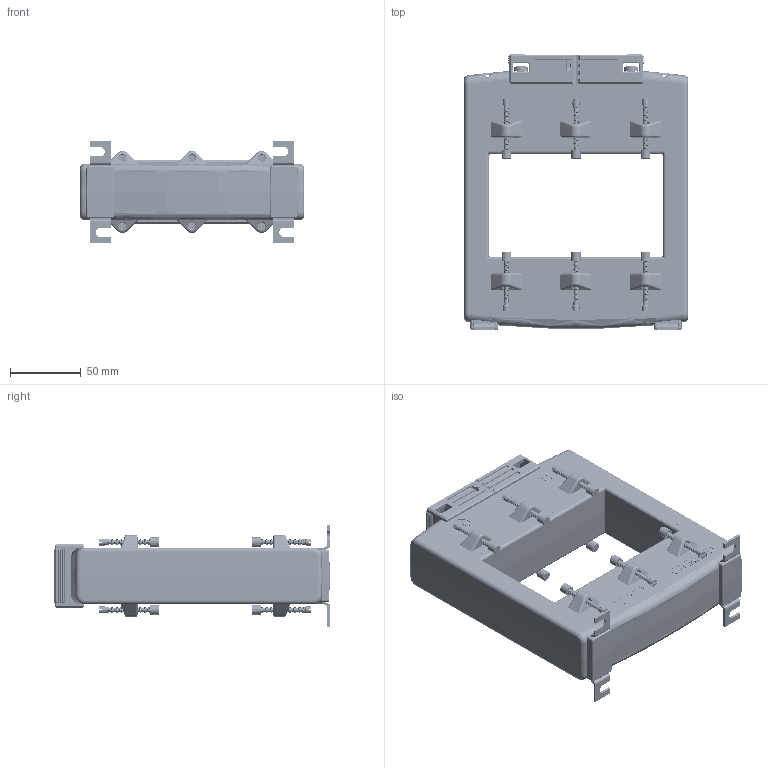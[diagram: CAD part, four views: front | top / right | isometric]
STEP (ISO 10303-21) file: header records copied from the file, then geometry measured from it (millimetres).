
FILE_DESCRIPTION(/* description */ (''),/* implementation_level */ '2;1');
FILE_NAME(/* name */ 'ASK127.4.stp',/* time_stamp */ '2024-03-04T14:41:11+01:00',/* author */ ('JDI'),/* organization */ (''),/* preprocessor_version */ 'ST-DEVELOPER v19.2',/* originating_system */ 'Autodesk Inventor 2023',/* authorisation */ '');
FILE_SCHEMA (('AUTOMOTIVE_DESIGN { 1 0 10303 214 3 1 1 }'));
Length unit declared in the file: millimetre
Products named in the file (1): ASK127.4t
Bounding box: 159 x 195.3 x 72 mm (x, y, z)
Volume: 837147.9 mm3; surface area: 110764 mm2
Topology: 1 solids, 1 shells, 2810 faces, 7588 edges, 4887 vertices
Faces by surface type: plane 1382, cylinder 834, bspline 428, cone 124, torus 38, sphere 4
Full cylindrical faces by diameter (mm): 2 x4, 3 x216, 3.75 x30, 3.8 x24, 4 x144, 4.1 x12, 5 x12, 5.8 x12, 10 x4
Entity records: 157535 total; most frequent: CARTESIAN_POINT 88880, ORIENTED_EDGE 15176, DIRECTION 11576, EDGE_CURVE 7588, VERTEX_POINT 4887, LINE 4410, VECTOR 4410, AXIS2_PLACEMENT_3D 3583
